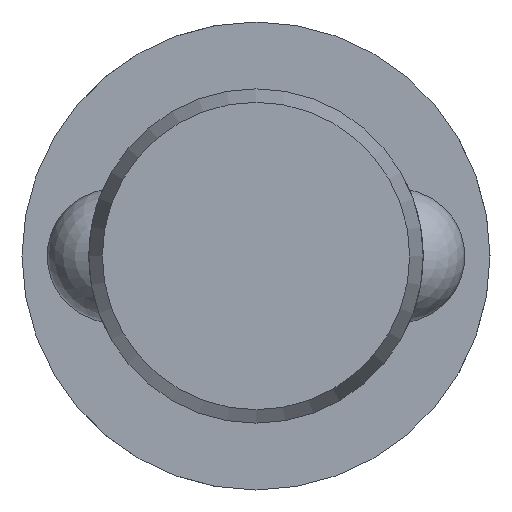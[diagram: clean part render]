
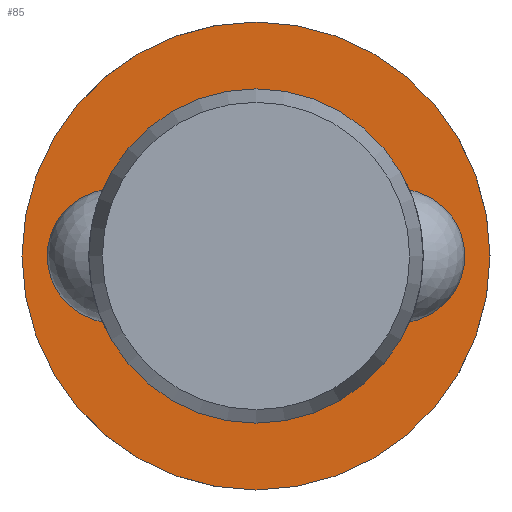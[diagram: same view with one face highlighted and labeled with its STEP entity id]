
A CAD part, left-side view. The second image highlights one B-rep face of the part: STEP entity #85.
In plain terms, the highlighted planar face has unit normal (-1, 0, 0).
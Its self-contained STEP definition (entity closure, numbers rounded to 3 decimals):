
#85 = ADVANCED_FACE( '', ( #131, #132 ), #133, .F. );
#131 = FACE_OUTER_BOUND( '', #204, .T. );
#132 = FACE_BOUND( '', #205, .T. );
#133 = PLANE( '', #206 );
#204 = EDGE_LOOP( '', ( #322 ) );
#205 = EDGE_LOOP( '', ( #323 ) );
#206 = AXIS2_PLACEMENT_3D( '', #324, #325, #326 );
#322 = ORIENTED_EDGE( '', *, *, #470, .F. );
#323 = ORIENTED_EDGE( '', *, *, #467, .T. );
#324 = CARTESIAN_POINT( '', ( 120.5, 10., 0. ) );
#325 = DIRECTION( '', ( 1., 0., 0. ) );
#326 = DIRECTION( '', ( 0., 0., -1. ) );
#467 = EDGE_CURVE( '', #541, #541, #542, .T. );
#470 = EDGE_CURVE( '', #547, #547, #548, .T. );
#541 = VERTEX_POINT( '', #777 );
#542 = CIRCLE( '', #778, 10. );
#547 = VERTEX_POINT( '', #909 );
#548 = CIRCLE( '', #910, 14. );
#777 = CARTESIAN_POINT( '', ( 120.5, 0., -10. ) );
#778 = AXIS2_PLACEMENT_3D( '', #989, #990, #991 );
#909 = CARTESIAN_POINT( '', ( 120.5, 0., -14. ) );
#910 = AXIS2_PLACEMENT_3D( '', #992, #993, #994 );
#989 = CARTESIAN_POINT( '', ( 120.5, 0., 0. ) );
#990 = DIRECTION( '', ( 1., 0., 0. ) );
#991 = DIRECTION( '', ( 0., 0., -1. ) );
#992 = CARTESIAN_POINT( '', ( 120.5, 0., 0. ) );
#993 = DIRECTION( '', ( 1., 0., 0. ) );
#994 = DIRECTION( '', ( 0., 0., -1. ) );
